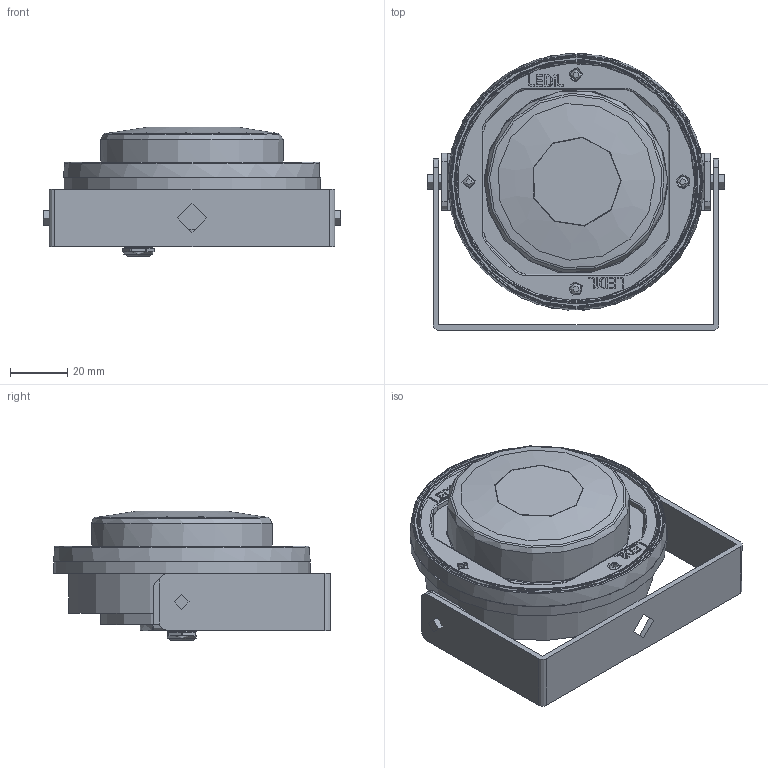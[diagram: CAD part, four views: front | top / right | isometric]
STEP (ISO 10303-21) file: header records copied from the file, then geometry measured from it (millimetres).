
FILE_DESCRIPTION(/* description */ (''),/* implementation_level */ '2;1');
FILE_NAME(/* name */ 'C:/Elena/ILM/02 3D/Pegaso/Pubblico/Quasimodo slim .step',/* time_stamp */ '2020-05-27T15:17:08+02:00',/* author */ (''),/* organization */ (''),/* preprocessor_version */ 'ST-DEVELOPER v18.1',/* originating_system */ 'Autodesk Translation Framework v9.3.0.1241',/* authorisation */ '');
FILE_SCHEMA (('AUTOMOTIVE_DESIGN { 1 0 10303 214 3 1 1 }'));
Length unit declared in the file: millimetre
Products named in the file (1): Pubblico
Bounding box: 104 x 96.91 x 45.48 mm (x, y, z)
Volume: 176548.1 mm3; surface area: 63272.1 mm2
Topology: 9 solids, 9 shells, 968 faces, 2292 edges, 1375 vertices
Faces by surface type: plane 289, torus 253, bspline 206, cone 147, cylinder 73
Full cylindrical faces by diameter (mm): 3.5 x2, 4 x2, 4.2 x4, 4.249 x4, 5 x3, 10 x3, 10.127 x1, 14 x1, 36.24 x1, 57 x1, 63.939 x1, 80 x1, 90 x1
Entity records: 36285 total; most frequent: CARTESIAN_POINT 14442, ORIENTED_EDGE 4584, DIRECTION 4570, EDGE_CURVE 2292, AXIS2_PLACEMENT_3D 1852, VERTEX_POINT 1375, CIRCLE 1062, EDGE_LOOP 1027
